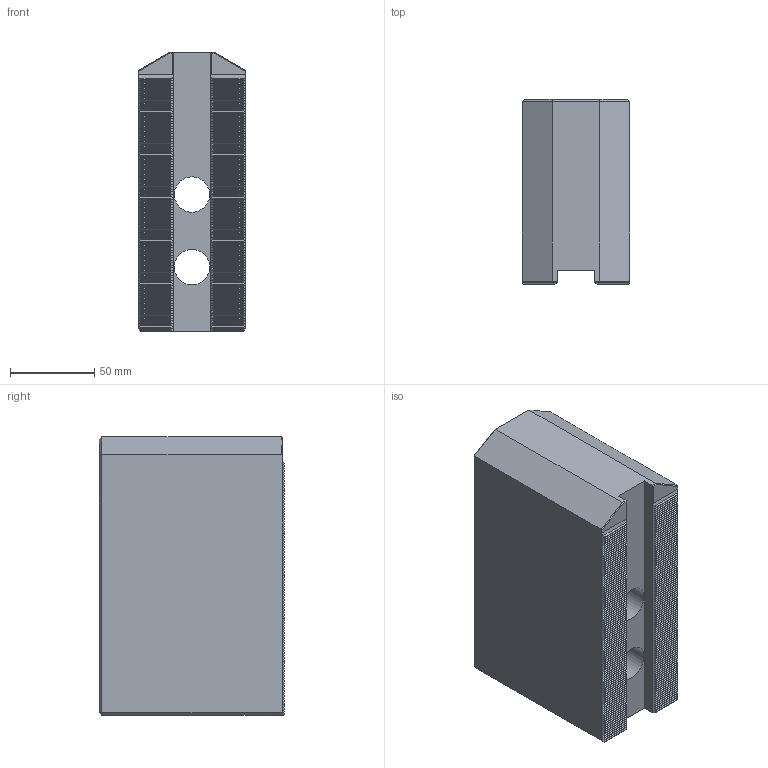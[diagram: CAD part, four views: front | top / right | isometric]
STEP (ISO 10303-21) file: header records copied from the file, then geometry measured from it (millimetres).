
FILE_DESCRIPTION(/* description */ (''),/* implementation_level */ '2;1');
FILE_NAME(/* name */ 'SC-15H110-22.stp',/* time_stamp */ '2025-10-21T10:56:49+03:00',/* author */ ('Arina Rekina'),/* organization */ (''),/* preprocessor_version */ 'ST-DEVELOPER v19.2',/* originating_system */ 'Autodesk Inventor 2024',/* authorisation */ '');
FILE_SCHEMA (('AUTOMOTIVE_DESIGN { 1 0 10303 214 3 1 1 }'));
Length unit declared in the file: millimetre
Products named in the file (1): SC-06H60
Bounding box: 64 x 110 x 165 mm (x, y, z)
Volume: 957693.6 mm3; surface area: 92639.2 mm2
Topology: 1 solids, 1 shells, 642 faces, 1898 edges, 1260 vertices
Faces by surface type: plane 636, cylinder 4, cone 2
Full cylindrical faces by diameter (mm): 21 x2, 32 x2
Entity records: 21017 total; most frequent: CARTESIAN_POINT 3801, ORIENTED_EDGE 3796, DIRECTION 3196, EDGE_CURVE 1898, LINE 1886, VECTOR 1886, VERTEX_POINT 1260, AXIS2_PLACEMENT_3D 655
